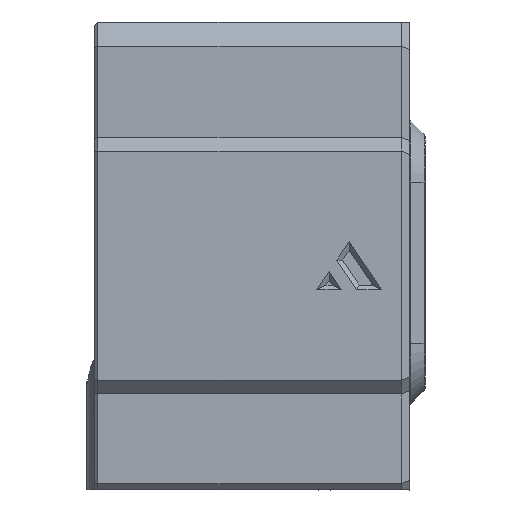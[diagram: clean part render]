
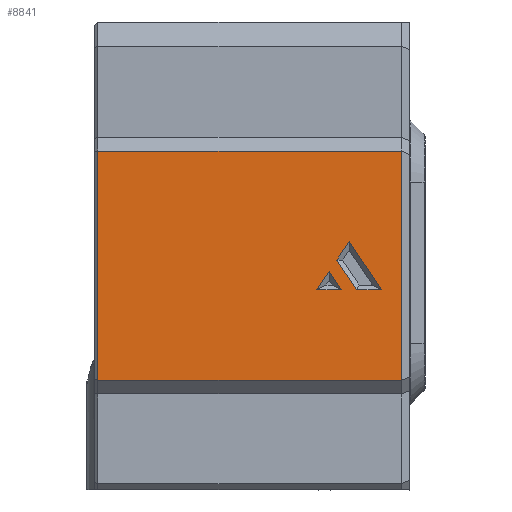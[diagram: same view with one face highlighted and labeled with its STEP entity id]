
A CAD part, left-side view. The second image highlights one B-rep face of the part: STEP entity #8841.
In plain terms, the highlighted planar face has unit normal (-1, 0, 0).
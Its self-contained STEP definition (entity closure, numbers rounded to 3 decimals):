
#110=FACE_BOUND('',#1421,.T.);
#111=FACE_BOUND('',#1422,.T.);
#143=PLANE('',#9492);
#861=FACE_OUTER_BOUND('',#1420,.T.);
#1420=EDGE_LOOP('',(#6239,#6240,#6241,#6242));
#1421=EDGE_LOOP('',(#6243,#6244,#6245,#6246));
#1422=EDGE_LOOP('',(#6247,#6248,#6249));
#2029=LINE('',#13351,#2812);
#2030=LINE('',#13353,#2813);
#2031=LINE('',#13355,#2814);
#2032=LINE('',#13356,#2815);
#2033=LINE('',#13359,#2816);
#2034=LINE('',#13361,#2817);
#2035=LINE('',#13363,#2818);
#2036=LINE('',#13364,#2819);
#2037=LINE('',#13367,#2820);
#2038=LINE('',#13369,#2821);
#2039=LINE('',#13370,#2822);
#2812=VECTOR('',#10535,1000.);
#2813=VECTOR('',#10536,1000.);
#2814=VECTOR('',#10537,1000.);
#2815=VECTOR('',#10538,1000.);
#2816=VECTOR('',#10539,1000.);
#2817=VECTOR('',#10540,1000.);
#2818=VECTOR('',#10541,1000.);
#2819=VECTOR('',#10542,1000.);
#2820=VECTOR('',#10543,1000.);
#2821=VECTOR('',#10544,1000.);
#2822=VECTOR('',#10545,1000.);
#4020=VERTEX_POINT('',#13349);
#4021=VERTEX_POINT('',#13350);
#4022=VERTEX_POINT('',#13352);
#4023=VERTEX_POINT('',#13354);
#4024=VERTEX_POINT('',#13357);
#4025=VERTEX_POINT('',#13358);
#4026=VERTEX_POINT('',#13360);
#4027=VERTEX_POINT('',#13362);
#4028=VERTEX_POINT('',#13365);
#4029=VERTEX_POINT('',#13366);
#4030=VERTEX_POINT('',#13368);
#4853=EDGE_CURVE('',#4020,#4021,#2029,.T.);
#4854=EDGE_CURVE('',#4020,#4022,#2030,.T.);
#4855=EDGE_CURVE('',#4022,#4023,#2031,.T.);
#4856=EDGE_CURVE('',#4023,#4021,#2032,.T.);
#4857=EDGE_CURVE('',#4024,#4025,#2033,.T.);
#4858=EDGE_CURVE('',#4025,#4026,#2034,.T.);
#4859=EDGE_CURVE('',#4026,#4027,#2035,.T.);
#4860=EDGE_CURVE('',#4027,#4024,#2036,.T.);
#4861=EDGE_CURVE('',#4028,#4029,#2037,.T.);
#4862=EDGE_CURVE('',#4028,#4030,#2038,.T.);
#4863=EDGE_CURVE('',#4030,#4029,#2039,.T.);
#6239=ORIENTED_EDGE('',*,*,#4853,.F.);
#6240=ORIENTED_EDGE('',*,*,#4854,.T.);
#6241=ORIENTED_EDGE('',*,*,#4855,.T.);
#6242=ORIENTED_EDGE('',*,*,#4856,.T.);
#6243=ORIENTED_EDGE('',*,*,#4857,.T.);
#6244=ORIENTED_EDGE('',*,*,#4858,.T.);
#6245=ORIENTED_EDGE('',*,*,#4859,.T.);
#6246=ORIENTED_EDGE('',*,*,#4860,.T.);
#6247=ORIENTED_EDGE('',*,*,#4861,.F.);
#6248=ORIENTED_EDGE('',*,*,#4862,.T.);
#6249=ORIENTED_EDGE('',*,*,#4863,.T.);
#8841=ADVANCED_FACE('',(#861,#110,#111),#143,.T.);
#9492=AXIS2_PLACEMENT_3D('',#13348,#10533,#10534);
#10533=DIRECTION('center_axis',(-1.,0.,0.));
#10534=DIRECTION('ref_axis',(0.,0.,1.));
#10535=DIRECTION('',(0.,1.,0.));
#10536=DIRECTION('',(0.,0.,1.));
#10537=DIRECTION('',(0.,1.,0.));
#10538=DIRECTION('',(0.,0.,-1.));
#10539=DIRECTION('',(0.,-0.555,0.832));
#10540=DIRECTION('',(0.,-0.555,-0.832));
#10541=DIRECTION('',(0.,1.,0.));
#10542=DIRECTION('',(0.,0.555,0.832));
#10543=DIRECTION('',(0.,0.555,0.832));
#10544=DIRECTION('',(0.,1.,0.));
#10545=DIRECTION('',(0.,-0.555,0.832));
#13348=CARTESIAN_POINT('Origin',(-1.7,-67.451,13.6));
#13349=CARTESIAN_POINT('',(-1.7,-38.,13.6));
#13350=CARTESIAN_POINT('',(-1.7,-0.4,13.6));
#13351=CARTESIAN_POINT('',(-1.7,-67.451,13.6));
#13352=CARTESIAN_POINT('',(-1.7,-38.,42.));
#13353=CARTESIAN_POINT('',(-1.7,-38.,13.6));
#13354=CARTESIAN_POINT('',(-1.7,-0.4,42.));
#13355=CARTESIAN_POINT('',(-1.7,-67.451,42.));
#13356=CARTESIAN_POINT('',(-1.7,-0.4,13.6));
#13357=CARTESIAN_POINT('',(-1.7,-30.011,28.492));
#13358=CARTESIAN_POINT('',(-1.7,-31.55,30.8));
#13359=CARTESIAN_POINT('',(-1.7,-7.627,-5.085));
#13360=CARTESIAN_POINT('',(-1.7,-35.55,24.8));
#13361=CARTESIAN_POINT('',(-1.7,-36.058,24.038));
#13362=CARTESIAN_POINT('',(-1.7,-32.473,24.8));
#13363=CARTESIAN_POINT('',(-1.7,0.,24.8));
#13364=CARTESIAN_POINT('',(-1.7,-33.927,22.618));
#13365=CARTESIAN_POINT('',(-1.7,-30.55,24.8));
#13366=CARTESIAN_POINT('',(-1.7,-29.05,27.05));
#13367=CARTESIAN_POINT('',(-1.7,-32.596,21.731));
#13368=CARTESIAN_POINT('',(-1.7,-27.55,24.8));
#13369=CARTESIAN_POINT('',(-1.7,0.,24.8));
#13370=CARTESIAN_POINT('',(-1.7,-7.627,-5.085));
